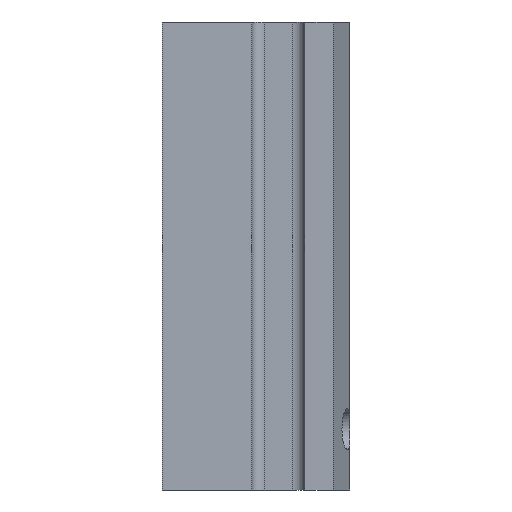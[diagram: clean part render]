
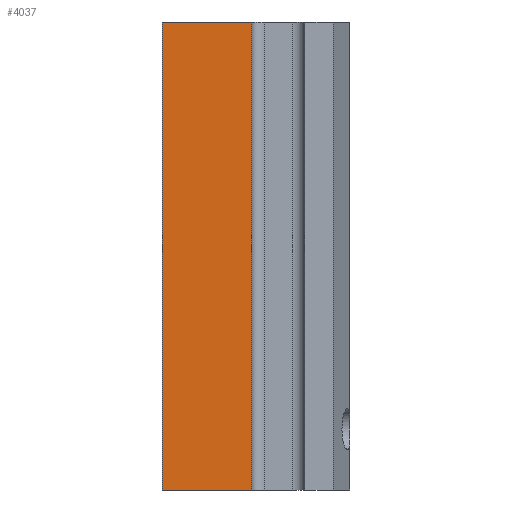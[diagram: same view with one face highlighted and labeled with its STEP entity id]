
A CAD part, left-side view. The second image highlights one B-rep face of the part: STEP entity #4037.
In plain terms, the highlighted planar face has unit normal (-1, 0, 0).
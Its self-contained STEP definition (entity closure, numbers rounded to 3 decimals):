
#32 = PLANE('',#33);
#33 = AXIS2_PLACEMENT_3D('',#34,#35,#36);
#34 = CARTESIAN_POINT('',(-45.,16.,-6.73));
#35 = DIRECTION('',(0.,-1.,0.));
#36 = DIRECTION('',(1.,0.,0.));
#44 = PLANE('',#45);
#45 = AXIS2_PLACEMENT_3D('',#46,#47,#48);
#46 = CARTESIAN_POINT('',(-45.,16.,-25.));
#47 = DIRECTION('',(-0.,0.,1.));
#48 = DIRECTION('',(0.95,-0.312,0.));
#191 = VERTEX_POINT('',#192);
#192 = CARTESIAN_POINT('',(-45.,16.,90.));
#206 = PLANE('',#207);
#207 = AXIS2_PLACEMENT_3D('',#208,#209,#210);
#208 = CARTESIAN_POINT('',(-45.,16.,90.));
#209 = DIRECTION('',(-0.,0.,1.));
#210 = DIRECTION('',(0.95,-0.312,0.));
#218 = EDGE_CURVE('',#219,#191,#221,.T.);
#219 = VERTEX_POINT('',#220);
#220 = CARTESIAN_POINT('',(-45.,16.,-25.));
#221 = SURFACE_CURVE('',#222,(#226,#233),.PCURVE_S1.);
#222 = LINE('',#223,#224);
#223 = CARTESIAN_POINT('',(-45.,16.,-25.));
#224 = VECTOR('',#225,1.);
#225 = DIRECTION('',(0.,0.,1.));
#226 = PCURVE('',#32,#227);
#227 = DEFINITIONAL_REPRESENTATION('',(#228),#232);
#228 = LINE('',#229,#230);
#229 = CARTESIAN_POINT('',(0.,-18.27));
#230 = VECTOR('',#231,1.);
#231 = DIRECTION('',(0.,1.));
#232 = ( GEOMETRIC_REPRESENTATION_CONTEXT(2) 
PARAMETRIC_REPRESENTATION_CONTEXT() REPRESENTATION_CONTEXT('2D SPACE',''
  ) );
#233 = PCURVE('',#234,#239);
#234 = PLANE('',#235);
#235 = AXIS2_PLACEMENT_3D('',#236,#237,#238);
#236 = CARTESIAN_POINT('',(-45.,-30.,-6.73));
#237 = DIRECTION('',(1.,0.,0.));
#238 = DIRECTION('',(-0.,1.,0.));
#239 = DEFINITIONAL_REPRESENTATION('',(#240),#244);
#240 = LINE('',#241,#242);
#241 = CARTESIAN_POINT('',(46.,-18.27));
#242 = VECTOR('',#243,1.);
#243 = DIRECTION('',(0.,1.));
#244 = ( GEOMETRIC_REPRESENTATION_CONTEXT(2) 
PARAMETRIC_REPRESENTATION_CONTEXT() REPRESENTATION_CONTEXT('2D SPACE',''
  ) );
#1754 = EDGE_CURVE('',#1755,#219,#1757,.T.);
#1755 = VERTEX_POINT('',#1756);
#1756 = CARTESIAN_POINT('',(-45.,-6.,-25.));
#1757 = SURFACE_CURVE('',#1758,(#1762,#1769),.PCURVE_S1.);
#1758 = LINE('',#1759,#1760);
#1759 = CARTESIAN_POINT('',(-45.,-30.,-25.));
#1760 = VECTOR('',#1761,1.);
#1761 = DIRECTION('',(0.,1.,0.));
#1762 = PCURVE('',#44,#1763);
#1763 = DEFINITIONAL_REPRESENTATION('',(#1764),#1768);
#1764 = LINE('',#1765,#1766);
#1765 = CARTESIAN_POINT('',(14.359,-43.701));
#1766 = VECTOR('',#1767,1.);
#1767 = DIRECTION('',(-0.312,0.95));
#1768 = ( GEOMETRIC_REPRESENTATION_CONTEXT(2) 
PARAMETRIC_REPRESENTATION_CONTEXT() REPRESENTATION_CONTEXT('2D SPACE',''
  ) );
#1769 = PCURVE('',#234,#1770);
#1770 = DEFINITIONAL_REPRESENTATION('',(#1771),#1775);
#1771 = LINE('',#1772,#1773);
#1772 = CARTESIAN_POINT('',(0.,-18.27));
#1773 = VECTOR('',#1774,1.);
#1774 = DIRECTION('',(1.,0.));
#1775 = ( GEOMETRIC_REPRESENTATION_CONTEXT(2) 
PARAMETRIC_REPRESENTATION_CONTEXT() REPRESENTATION_CONTEXT('2D SPACE',''
  ) );
#1798 = CYLINDRICAL_SURFACE('',#1799,3.);
#1799 = AXIS2_PLACEMENT_3D('',#1800,#1801,#1802);
#1800 = CARTESIAN_POINT('',(-45.,-9.,-26.));
#1801 = DIRECTION('',(-0.,-0.,-1.));
#1802 = DIRECTION('',(1.,0.,0.));
#4037 = ADVANCED_FACE('',(#4038),#234,.F.);
#4038 = FACE_BOUND('',#4039,.F.);
#4039 = EDGE_LOOP('',(#4040,#4063,#4064,#4065));
#4040 = ORIENTED_EDGE('',*,*,#4041,.F.);
#4041 = EDGE_CURVE('',#1755,#4042,#4044,.T.);
#4042 = VERTEX_POINT('',#4043);
#4043 = CARTESIAN_POINT('',(-45.,-6.,90.));
#4044 = SURFACE_CURVE('',#4045,(#4049,#4056),.PCURVE_S1.);
#4045 = LINE('',#4046,#4047);
#4046 = CARTESIAN_POINT('',(-45.,-6.,-26.));
#4047 = VECTOR('',#4048,1.);
#4048 = DIRECTION('',(0.,0.,1.));
#4049 = PCURVE('',#234,#4050);
#4050 = DEFINITIONAL_REPRESENTATION('',(#4051),#4055);
#4051 = LINE('',#4052,#4053);
#4052 = CARTESIAN_POINT('',(24.,-19.27));
#4053 = VECTOR('',#4054,1.);
#4054 = DIRECTION('',(0.,1.));
#4055 = ( GEOMETRIC_REPRESENTATION_CONTEXT(2) 
PARAMETRIC_REPRESENTATION_CONTEXT() REPRESENTATION_CONTEXT('2D SPACE',''
  ) );
#4056 = PCURVE('',#1798,#4057);
#4057 = DEFINITIONAL_REPRESENTATION('',(#4058),#4062);
#4058 = LINE('',#4059,#4060);
#4059 = CARTESIAN_POINT('',(-1.571,0.));
#4060 = VECTOR('',#4061,1.);
#4061 = DIRECTION('',(-0.,-1.));
#4062 = ( GEOMETRIC_REPRESENTATION_CONTEXT(2) 
PARAMETRIC_REPRESENTATION_CONTEXT() REPRESENTATION_CONTEXT('2D SPACE',''
  ) );
#4063 = ORIENTED_EDGE('',*,*,#1754,.T.);
#4064 = ORIENTED_EDGE('',*,*,#218,.T.);
#4065 = ORIENTED_EDGE('',*,*,#4066,.F.);
#4066 = EDGE_CURVE('',#4042,#191,#4067,.T.);
#4067 = SURFACE_CURVE('',#4068,(#4072,#4079),.PCURVE_S1.);
#4068 = LINE('',#4069,#4070);
#4069 = CARTESIAN_POINT('',(-45.,-30.,90.));
#4070 = VECTOR('',#4071,1.);
#4071 = DIRECTION('',(0.,1.,0.));
#4072 = PCURVE('',#234,#4073);
#4073 = DEFINITIONAL_REPRESENTATION('',(#4074),#4078);
#4074 = LINE('',#4075,#4076);
#4075 = CARTESIAN_POINT('',(0.,96.73));
#4076 = VECTOR('',#4077,1.);
#4077 = DIRECTION('',(1.,0.));
#4078 = ( GEOMETRIC_REPRESENTATION_CONTEXT(2) 
PARAMETRIC_REPRESENTATION_CONTEXT() REPRESENTATION_CONTEXT('2D SPACE',''
  ) );
#4079 = PCURVE('',#206,#4080);
#4080 = DEFINITIONAL_REPRESENTATION('',(#4081),#4085);
#4081 = LINE('',#4082,#4083);
#4082 = CARTESIAN_POINT('',(14.359,-43.701));
#4083 = VECTOR('',#4084,1.);
#4084 = DIRECTION('',(-0.312,0.95));
#4085 = ( GEOMETRIC_REPRESENTATION_CONTEXT(2) 
PARAMETRIC_REPRESENTATION_CONTEXT() REPRESENTATION_CONTEXT('2D SPACE',''
  ) );
